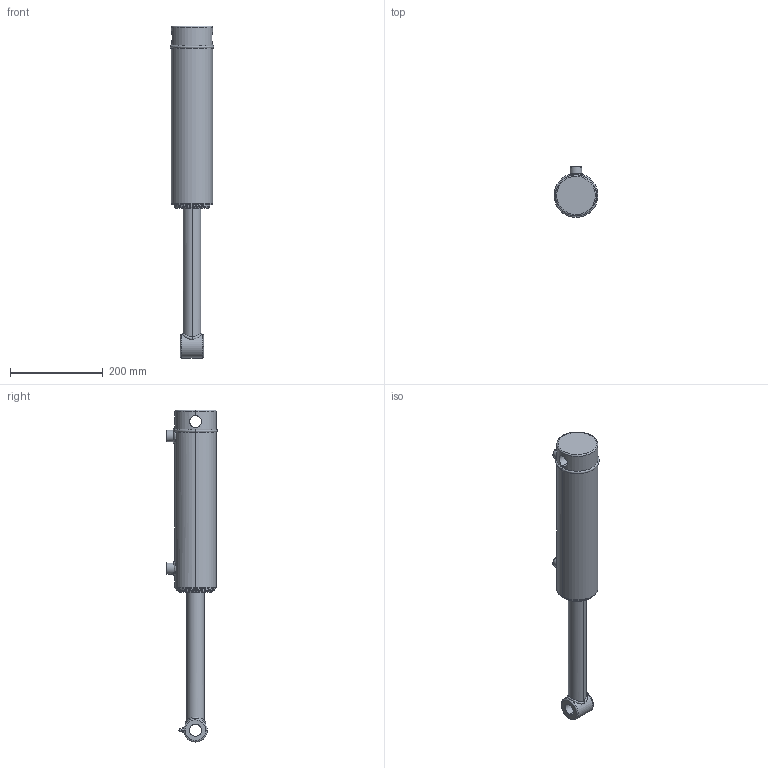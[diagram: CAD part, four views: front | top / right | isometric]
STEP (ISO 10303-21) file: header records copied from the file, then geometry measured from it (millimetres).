
FILE_DESCRIPTION (( 'STEP AP203' ), '1' );
FILE_NAME ('SB-C3001550x245 (10) extended.STEP', '2014-11-19T21:11:27', ( '' ), ( '' ), 'SwSTEP 2.0', 'SolidWorks 2014', '' );
FILE_SCHEMA (( 'CONFIG_CONTROL_DESIGN' ));
Length unit declared in the file: millimetre
Products named in the file (7): SB-C300150x254 (10) BODY; 3 inch circlip; 18 NPT GREASE NIPPLE; SB-C3001550x254 (10) body; SPARE 10; 10 SPARE; SB-C3001550x245 (10) extended
Assembly tree (6 placements, depth 3):
  SB-C3001550x245 (10) extended
    SB-C3001550x254 (10) body
      SB-C300150x254 (10) BODY
      3 inch circlip
    SPARE 10
      10 SPARE
      18 NPT GREASE NIPPLE
Bounding box: 94.9 x 109.9 x 716.4 mm (x, y, z)
Volume: 2573548.7 mm3; surface area: 224747.3 mm2
Topology: 4 solids, 4 shells, 133 faces, 306 edges, 190 vertices
Faces by surface type: cylinder 51, plane 29, cone 22, bspline 18, torus 11, sphere 2
Entity records: 10452 total; most frequent: CARTESIAN_POINT 6772, DIRECTION 638, ORIENTED_EDGE 604, EDGE_CURVE 302, AXIS2_PLACEMENT_3D 270, VERTEX_POINT 190, EDGE_LOOP 158, CIRCLE 144
